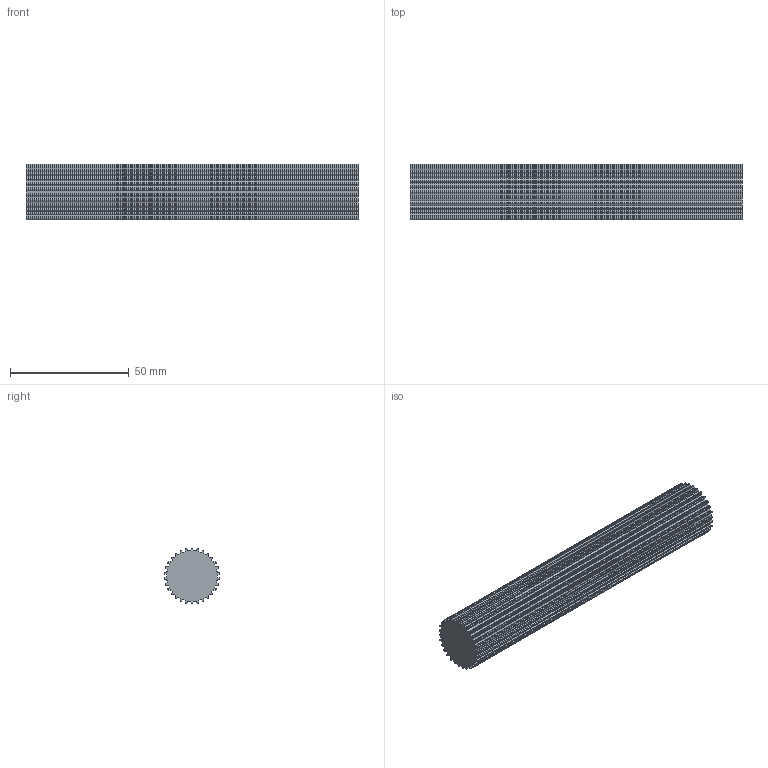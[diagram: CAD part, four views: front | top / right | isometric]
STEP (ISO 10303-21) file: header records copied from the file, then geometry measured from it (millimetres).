
FILE_DESCRIPTION( ( 'STEP AP214' ), '1' );
FILE_NAME( 'C:/Users/StangenbergN/Documents/CAD_Step/1/16093000.stp', '2019-07-25T19:41:45', ( '' ), ( '' ), ' ', 'PARTsolutions', ' ' );
FILE_SCHEMA( ( 'AUTOMOTIVE_DESIGN { 1 0 10303 214 1 1 1 1 }' ) );
Length unit declared in the file: millimetre
Products named in the file (1): _16093000
Bounding box: 140 x 23.26 x 23.37 mm (x, y, z)
Volume: 53823.6 mm3; surface area: 15840 mm2
Topology: 1 solids, 1 shells, 242 faces, 720 edges, 480 vertices
Faces by surface type: cylinder 150, plane 92
Entity records: 10196 total; most frequent: DIRECTION 1506, CARTESIAN_POINT 1443, ORIENTED_EDGE 1440, EDGE_CURVE 720, AXIS2_PLACEMENT_3D 543, VERTEX_POINT 480, LINE 420, VECTOR 420
